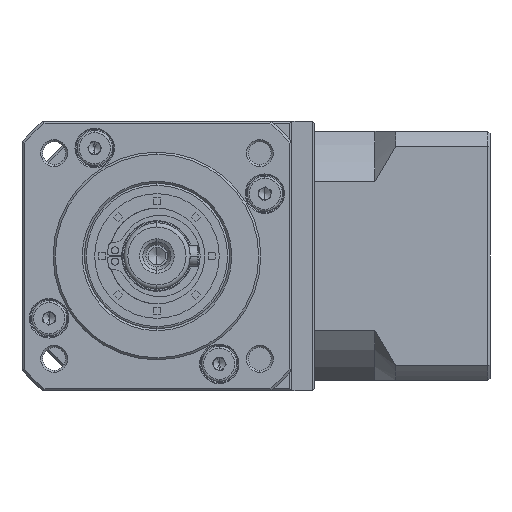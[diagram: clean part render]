
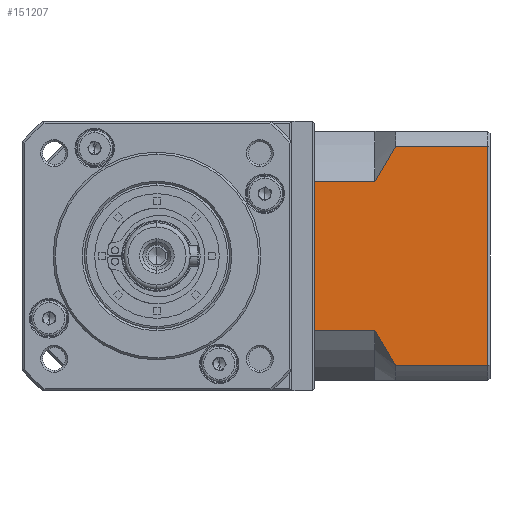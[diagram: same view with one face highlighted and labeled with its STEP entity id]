
A CAD part, left-side view. The second image highlights one B-rep face of the part: STEP entity #151207.
In plain terms, the highlighted planar face has unit normal (-1, 0, 0).
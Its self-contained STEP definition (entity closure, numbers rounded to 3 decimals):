
#649 = DIRECTION ( 'NONE',  ( 0., -1., 0. ) ) ;
#988 = CARTESIAN_POINT ( 'NONE',  ( 16.666, 3.458, 94.672 ) ) ;
#1828 = ORIENTED_EDGE ( 'NONE', *, *, #110822, .F. ) ;
#1980 = EDGE_CURVE ( 'NONE', #93226, #52919, #80340, .T. ) ;
#5276 = LINE ( 'NONE', #102471, #102488 ) ;
#15739 = CARTESIAN_POINT ( 'NONE',  ( 16.666, -11.793, 93.216 ) ) ;
#22398 = CARTESIAN_POINT ( 'NONE',  ( 16.666, -14.27, 136.419 ) ) ;
#26474 = DIRECTION ( 'NONE',  ( 0., 0., -1. ) ) ;
#28468 = CARTESIAN_POINT ( 'NONE',  ( 16.666, -14.267, 88.985 ) ) ;
#29675 = CARTESIAN_POINT ( 'NONE',  ( 16.666, -11.042, 139.158 ) ) ;
#33535 = CARTESIAN_POINT ( 'NONE',  ( 16.666, -38.742, 82.7 ) ) ;
#35162 = CARTESIAN_POINT ( 'NONE',  ( 16.666, -11.79, 132.18 ) ) ;
#36994 = CARTESIAN_POINT ( 'NONE',  ( 16.666, -11.042, 86.242 ) ) ;
#37957 = EDGE_CURVE ( 'NONE', #107394, #98439, #98197, .T. ) ;
#41236 = CARTESIAN_POINT ( 'NONE',  ( 16.666, -16.042, 86.242 ) ) ;
#44844 = LINE ( 'NONE', #29675, #108326 ) ;
#46347 = DIRECTION ( 'NONE',  ( 0., 1., 0. ) ) ;
#47030 = VERTEX_POINT ( 'NONE', #988 ) ;
#52919 = VERTEX_POINT ( 'NONE', #88274 ) ;
#55244 = DIRECTION ( 'NONE',  ( 0., -1., 0. ) ) ;
#56213 = EDGE_LOOP ( 'NONE', ( #161913, #57013, #156906, #119198, #131942, #162053, #1828, #108397 ) ) ;
#57013 = ORIENTED_EDGE ( 'NONE', *, *, #37957, .T. ) ;
#58865 = VERTEX_POINT ( 'NONE', #134452 ) ;
#67308 = DIRECTION ( 'NONE',  ( 0., 1., 0. ) ) ;
#68376 = CARTESIAN_POINT ( 'NONE',  ( 16.666, -16.042, 139.158 ) ) ;
#69850 = LINE ( 'NONE', #36994, #129400 ) ;
#78297 = B_SPLINE_CURVE_WITH_KNOTS ( 'NONE', 3,
 ( #85705, #161721, #22398, #111159, #35162, #124007 ),
 .UNSPECIFIED., .F., .F.,
 ( 4, 2, 4 ),
 ( 0.052, 0.057, 0.062 ),
 .UNSPECIFIED. ) ;
#78468 = CARTESIAN_POINT ( 'NONE',  ( 16.666, -11.042, 94.672 ) ) ;
#78957 = CARTESIAN_POINT ( 'NONE',  ( 16.666, -38.242, 86.242 ) ) ;
#80340 = B_SPLINE_CURVE_WITH_KNOTS ( 'NONE', 3,
 ( #104487, #15739, #91726, #28468, #117321, #41236 ),
 .UNSPECIFIED., .F., .F.,
 ( 4, 2, 4 ),
 ( 0.1, 0.104, 0.109 ),
 .UNSPECIFIED. ) ;
#85378 = EDGE_CURVE ( 'NONE', #116990, #98439, #44844, .T. ) ;
#85705 = CARTESIAN_POINT ( 'NONE',  ( 16.666, -16.042, 139.158 ) ) ;
#87105 = LINE ( 'NONE', #156131, #120943 ) ;
#88274 = CARTESIAN_POINT ( 'NONE',  ( 16.666, -16.042, 86.242 ) ) ;
#89401 = VECTOR ( 'NONE', #649, 1000. ) ;
#89410 = CARTESIAN_POINT ( 'NONE',  ( 16.666, -11.042, 130.728 ) ) ;
#91726 = CARTESIAN_POINT ( 'NONE',  ( 16.666, -12.593, 91.79 ) ) ;
#93226 = VERTEX_POINT ( 'NONE', #78468 ) ;
#96264 = PLANE ( 'NONE',  #138523 ) ;
#98197 = LINE ( 'NONE', #106735, #132032 ) ;
#98439 = VERTEX_POINT ( 'NONE', #159490 ) ;
#100184 = EDGE_CURVE ( 'NONE', #107394, #52919, #69850, .T. ) ;
#101086 = FACE_OUTER_BOUND ( 'NONE', #56213, .T. ) ;
#102471 = CARTESIAN_POINT ( 'NONE',  ( 16.666, 3.458, 82.7 ) ) ;
#102488 = VECTOR ( 'NONE', #26474, 1000. ) ;
#104487 = CARTESIAN_POINT ( 'NONE',  ( 16.666, -11.042, 94.672 ) ) ;
#106735 = CARTESIAN_POINT ( 'NONE',  ( 16.666, -38.242, 82.7 ) ) ;
#107394 = VERTEX_POINT ( 'NONE', #78957 ) ;
#108326 = VECTOR ( 'NONE', #55244, 1000. ) ;
#108397 = ORIENTED_EDGE ( 'NONE', *, *, #1980, .T. ) ;
#110822 = EDGE_CURVE ( 'NONE', #93226, #47030, #87105, .T. ) ;
#111159 = CARTESIAN_POINT ( 'NONE',  ( 16.666, -12.594, 133.611 ) ) ;
#116017 = CARTESIAN_POINT ( 'NONE',  ( 16.666, 3.458, 130.728 ) ) ;
#116990 = VERTEX_POINT ( 'NONE', #68376 ) ;
#117321 = CARTESIAN_POINT ( 'NONE',  ( 16.666, -15.141, 87.605 ) ) ;
#119198 = ORIENTED_EDGE ( 'NONE', *, *, #135090, .T. ) ;
#119576 = DIRECTION ( 'NONE',  ( 0., 0., 1. ) ) ;
#120943 = VECTOR ( 'NONE', #67308, 1000. ) ;
#122403 = DIRECTION ( 'NONE',  ( 1., 0., 0. ) ) ;
#124007 = CARTESIAN_POINT ( 'NONE',  ( 16.666, -11.042, 130.728 ) ) ;
#127658 = VERTEX_POINT ( 'NONE', #116017 ) ;
#129400 = VECTOR ( 'NONE', #151342, 1000. ) ;
#130937 = EDGE_CURVE ( 'NONE', #127658, #58865, #157016, .T. ) ;
#131942 = ORIENTED_EDGE ( 'NONE', *, *, #130937, .F. ) ;
#132032 = VECTOR ( 'NONE', #119576, 1000. ) ;
#134452 = CARTESIAN_POINT ( 'NONE',  ( 16.666, -11.042, 130.728 ) ) ;
#135090 = EDGE_CURVE ( 'NONE', #116990, #58865, #78297, .T. ) ;
#138523 = AXIS2_PLACEMENT_3D ( 'NONE', #33535, #122403, #46347 ) ;
#151207 = ADVANCED_FACE ( 'NONE', ( #101086 ), #96264, .F. ) ;
#151342 = DIRECTION ( 'NONE',  ( 0., 1., 0. ) ) ;
#156131 = CARTESIAN_POINT ( 'NONE',  ( 16.666, -11.042, 94.672 ) ) ;
#156906 = ORIENTED_EDGE ( 'NONE', *, *, #85378, .F. ) ;
#157016 = LINE ( 'NONE', #89410, #89401 ) ;
#159490 = CARTESIAN_POINT ( 'NONE',  ( 16.666, -38.242, 139.158 ) ) ;
#161272 = EDGE_CURVE ( 'NONE', #127658, #47030, #5276, .T. ) ;
#161721 = CARTESIAN_POINT ( 'NONE',  ( 16.666, -15.143, 137.798 ) ) ;
#161913 = ORIENTED_EDGE ( 'NONE', *, *, #100184, .F. ) ;
#162053 = ORIENTED_EDGE ( 'NONE', *, *, #161272, .T. ) ;
